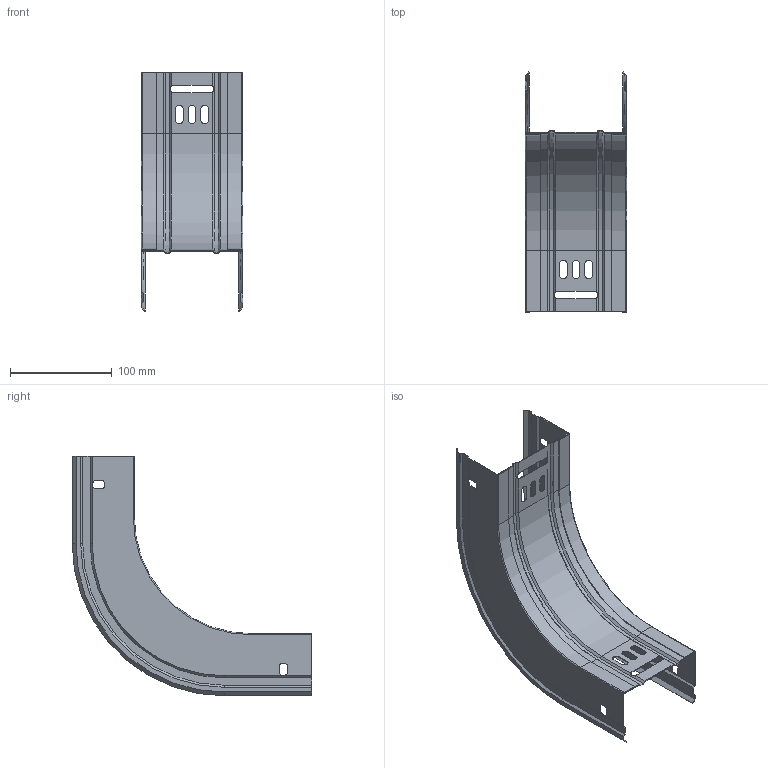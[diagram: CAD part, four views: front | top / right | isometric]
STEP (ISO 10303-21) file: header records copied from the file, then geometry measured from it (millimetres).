
FILE_DESCRIPTION (( 'STEP AP203' ), '1' );
FILE_NAME ('ERE_CONVEXA 100x60.step', '2023-07-27T18:48:54', ( '' ), ( '' ), 'SwSTEP 2.0', 'SolidWorks 2022', '' );
FILE_SCHEMA (( 'CONFIG_CONTROL_DESIGN' ));
Length unit declared in the file: millimetre
Products named in the file (3): ERE_BASE CX_100; ERE_LATERAL CX_60; ERE_CONVEXA 100x60
Assembly tree (3 placements, depth 2):
  ERE_CONVEXA 100x60
    ERE_BASE CX_100
    ERE_LATERAL CX_60  x2
Bounding box: 100 x 235.2 x 235.2 mm (x, y, z)
Volume: 68370.1 mm3; surface area: 173434.7 mm2
Topology: 3 solids, 3 shells, 210 faces, 560 edges, 348 vertices
Faces by surface type: plane 134, cylinder 50, cone 22, torus 4
Entity records: 5088 total; most frequent: CARTESIAN_POINT 862, ORIENTED_EDGE 822, DIRECTION 815, EDGE_CURVE 411, VECTOR 301, LINE 301, AXIS2_PLACEMENT_3D 257, VERTEX_POINT 256
